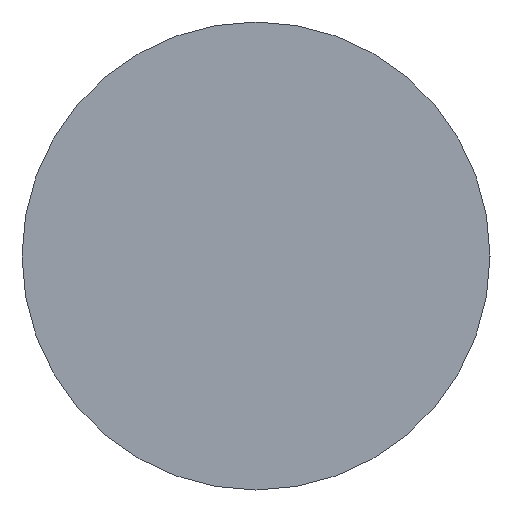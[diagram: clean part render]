
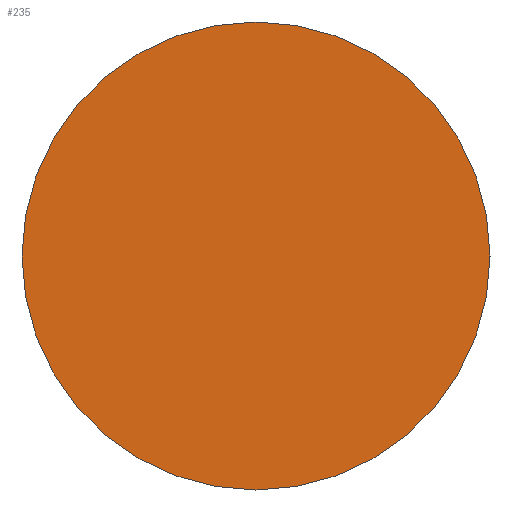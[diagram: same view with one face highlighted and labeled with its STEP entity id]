
A CAD part, left-side view. The second image highlights one B-rep face of the part: STEP entity #235.
In plain terms, the highlighted planar face has unit normal (-1, 0, 0).
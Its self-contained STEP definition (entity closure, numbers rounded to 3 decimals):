
#7 = EDGE_CURVE ( 'NONE', #50, #49, #178, .T. ) ;
#10 = CARTESIAN_POINT ( 'NONE',  ( 0., 0., 0. ) ) ;
#39 = ORIENTED_EDGE ( 'NONE', *, *, #7, .T. ) ;
#41 = DIRECTION ( 'NONE',  ( 1., 0., 0. ) ) ;
#49 = VERTEX_POINT ( 'NONE', #96 ) ;
#50 = VERTEX_POINT ( 'NONE', #286 ) ;
#59 = AXIS2_PLACEMENT_3D ( 'NONE', #10, #41, #219 ) ;
#74 = CIRCLE ( 'NONE', #102, 1. ) ;
#96 = CARTESIAN_POINT ( 'NONE',  ( 0., 0., 1. ) ) ;
#97 = CARTESIAN_POINT ( 'NONE',  ( 0., 0., 0. ) ) ;
#102 = AXIS2_PLACEMENT_3D ( 'NONE', #97, #234, #190 ) ;
#108 = EDGE_LOOP ( 'NONE', ( #224, #39 ) ) ;
#159 = CARTESIAN_POINT ( 'NONE',  ( 0., 0., 0. ) ) ;
#178 = CIRCLE ( 'NONE', #206, 1. ) ;
#190 = DIRECTION ( 'NONE',  ( 0., 0., 1. ) ) ;
#193 = DIRECTION ( 'NONE',  ( 0., 0., 1. ) ) ;
#206 = AXIS2_PLACEMENT_3D ( 'NONE', #159, #225, #193 ) ;
#219 = DIRECTION ( 'NONE',  ( 0., 0., -1. ) ) ;
#224 = ORIENTED_EDGE ( 'NONE', *, *, #258, .T. ) ;
#225 = DIRECTION ( 'NONE',  ( -1., 0., 0. ) ) ;
#234 = DIRECTION ( 'NONE',  ( -1., 0., 0. ) ) ;
#235 = ADVANCED_FACE ( 'NONE', ( #252 ), #237, .F. ) ;
#237 = PLANE ( 'NONE',  #59 ) ;
#252 = FACE_OUTER_BOUND ( 'NONE', #108, .T. ) ;
#258 = EDGE_CURVE ( 'NONE', #49, #50, #74, .T. ) ;
#286 = CARTESIAN_POINT ( 'NONE',  ( 0., 0., -1. ) ) ;
